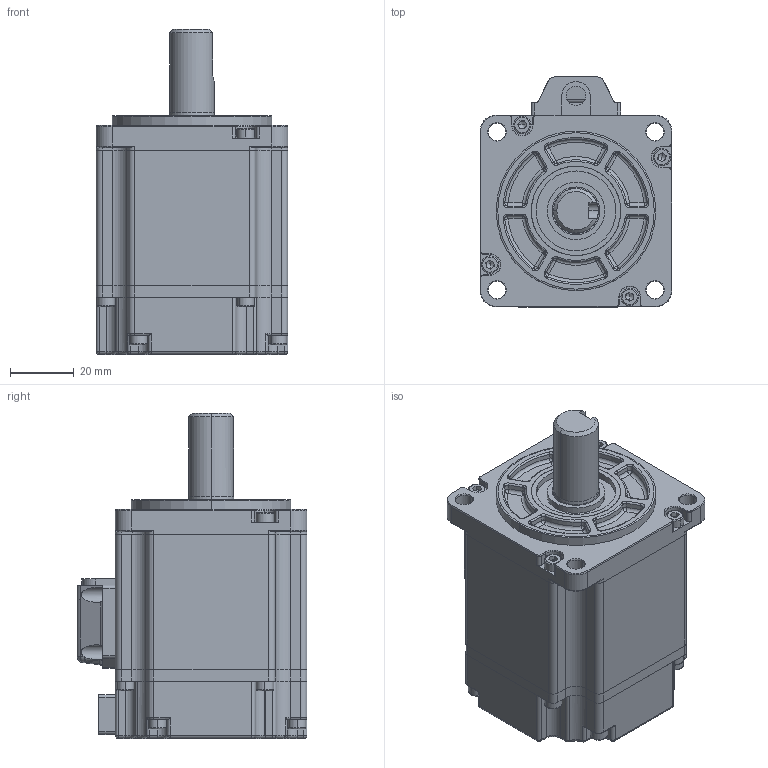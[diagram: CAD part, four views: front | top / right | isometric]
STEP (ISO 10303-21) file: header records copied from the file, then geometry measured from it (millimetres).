
FILE_DESCRIPTION (( 'STEP AP203' ), '1' );
FILE_NAME ('AS2MJ-06-0230B-D321-B.STEP', '2021-05-22T02:48:09', ( '' ), ( '' ), 'SwSTEP 2.0', 'SolidWorks 2016', '' );
FILE_SCHEMA (( 'CONFIG_CONTROL_DESIGN' ));
Length unit declared in the file: millimetre
Products named in the file (1): AS2MJ-06-0230B-D321-B
Bounding box: 60 x 72 x 101.8 mm (x, y, z)
Surface area: 34212 mm2 (no closed solid volume)
Topology: 0 solids, 25 shells, 759 faces, 2061 edges, 1257 vertices
Faces by surface type: cylinder 305, plane 234, torus 130, sphere 58, cone 28, bspline 4
Entity records: 23677 total; most frequent: DIRECTION 4450, CARTESIAN_POINT 4376, ORIENTED_EDGE 3646, EDGE_CURVE 1991, AXIS2_PLACEMENT_3D 1761, VERTEX_POINT 1249, CIRCLE 1005, LINE 928
